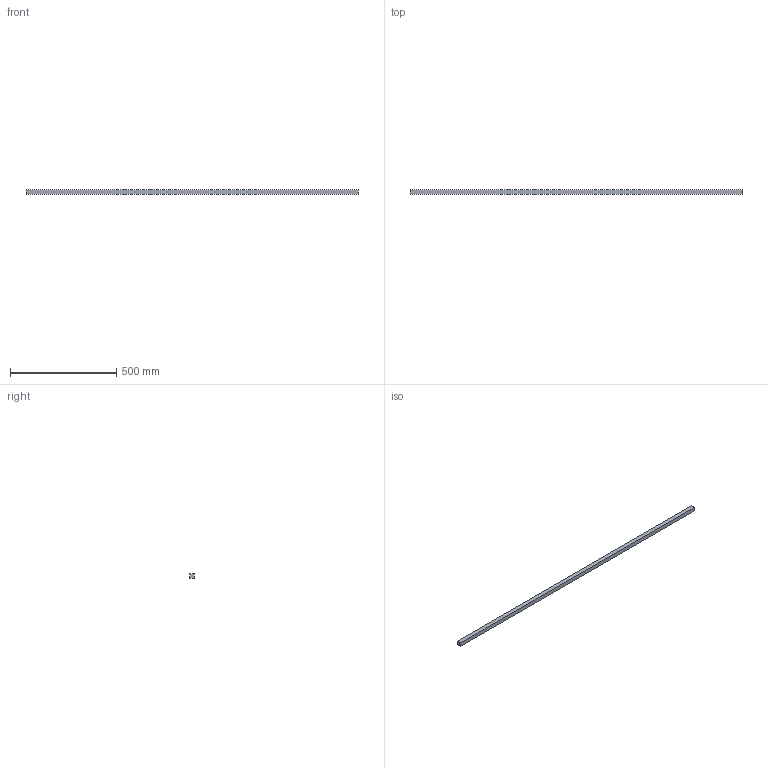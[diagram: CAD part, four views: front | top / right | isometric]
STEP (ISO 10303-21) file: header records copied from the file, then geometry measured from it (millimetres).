
FILE_DESCRIPTION(/* description */ (''),/* implementation_level */ '2;1');
FILE_NAME(/* name */ 'FRC959~1',/* time_stamp */ '2014-02-14T19:35:33+01:00',/* author */ (''),/* organization */ (''),/* preprocessor_version */ 'ST-DEVELOPER v14',/* originating_system */ '',/* authorisation */ '');
FILE_SCHEMA (('AUTOMOTIVE_DESIGN'));
Length unit declared in the file: millimetre
Products named in the file (1): Document
Bounding box: 1564 x 20 x 20 mm (x, y, z)
Volume: 625600 mm3; surface area: 125920 mm2
Topology: 1 solids, 1 shells, 6 faces, 12 edges, 8 vertices
Faces by surface type: plane 6
Entity records: 298 total; most frequent: CARTESIAN_POINT 88, B_SPLINE_CURVE_WITH_KNOTS 36, ORIENTED_EDGE 24, PCURVE 24, DEFINITIONAL_REPRESENTATION 24, SURFACE_CURVE 12, EDGE_CURVE 12, DIRECTION 10
